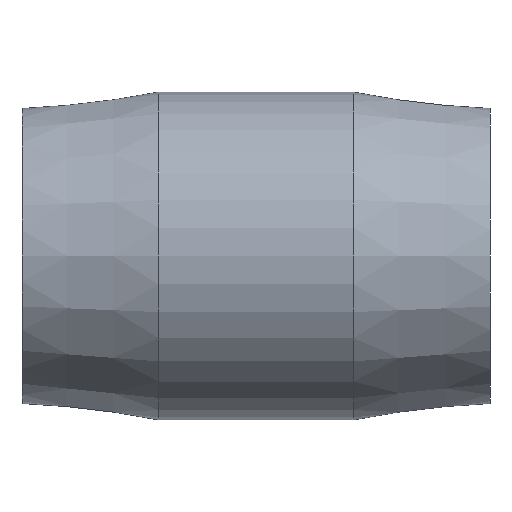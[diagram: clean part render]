
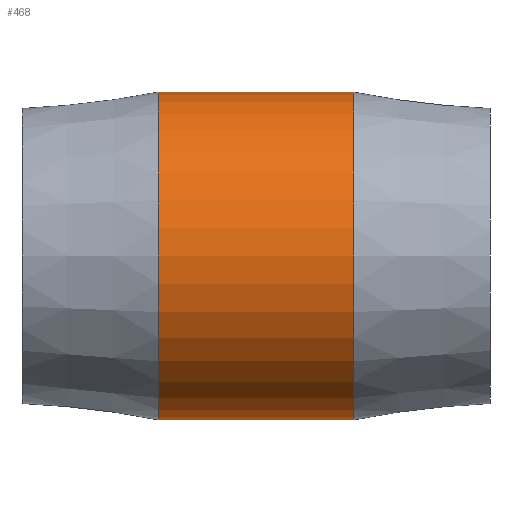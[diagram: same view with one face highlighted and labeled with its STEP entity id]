
A CAD part, front view. The second image highlights one B-rep face of the part: STEP entity #468.
In plain terms, the highlighted cylindrical face has radius 41.021 mm (diameter 82.042 mm), a full revolution.
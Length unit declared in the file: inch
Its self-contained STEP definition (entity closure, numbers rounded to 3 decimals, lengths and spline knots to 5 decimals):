
#44=LINE('',#869,#61);
#61=VECTOR('',#639,1.615);
#76=CYLINDRICAL_SURFACE('',#528,1.615);
#94=FACE_OUTER_BOUND('',#127,.T.);
#127=EDGE_LOOP('',(#350,#351,#352,#353,#354,#355));
#163=CIRCLE('',#529,1.615);
#164=CIRCLE('',#530,1.615);
#165=CIRCLE('',#531,1.615);
#166=CIRCLE('',#532,1.615);
#212=VERTEX_POINT('',#864);
#213=VERTEX_POINT('',#865);
#214=VERTEX_POINT('',#868);
#215=VERTEX_POINT('',#870);
#267=EDGE_CURVE('',#212,#213,#163,.T.);
#268=EDGE_CURVE('',#213,#212,#164,.T.);
#269=EDGE_CURVE('',#213,#214,#44,.T.);
#270=EDGE_CURVE('',#214,#215,#165,.T.);
#271=EDGE_CURVE('',#215,#214,#166,.T.);
#350=ORIENTED_EDGE('',*,*,#267,.F.);
#351=ORIENTED_EDGE('',*,*,#268,.F.);
#352=ORIENTED_EDGE('',*,*,#269,.T.);
#353=ORIENTED_EDGE('',*,*,#270,.T.);
#354=ORIENTED_EDGE('',*,*,#271,.T.);
#355=ORIENTED_EDGE('',*,*,#269,.F.);
#468=ADVANCED_FACE('',(#94),#76,.T.);
#528=AXIS2_PLACEMENT_3D('',#863,#633,#634);
#529=AXIS2_PLACEMENT_3D('',#866,#635,#636);
#530=AXIS2_PLACEMENT_3D('',#867,#637,#638);
#531=AXIS2_PLACEMENT_3D('',#871,#640,#641);
#532=AXIS2_PLACEMENT_3D('',#872,#642,#643);
#633=DIRECTION('center_axis',(1.,0.,0.));
#634=DIRECTION('ref_axis',(0.,1.,0.));
#635=DIRECTION('center_axis',(1.,0.,0.));
#636=DIRECTION('ref_axis',(0.,0.,-1.));
#637=DIRECTION('center_axis',(1.,0.,0.));
#638=DIRECTION('ref_axis',(0.,0.,-1.));
#639=DIRECTION('',(-1.,0.,0.));
#640=DIRECTION('center_axis',(1.,0.,0.));
#641=DIRECTION('ref_axis',(0.,0.,-1.));
#642=DIRECTION('center_axis',(1.,0.,0.));
#643=DIRECTION('ref_axis',(0.,0.,-1.));
#863=CARTESIAN_POINT('Origin',(0.476,0.,0.));
#864=CARTESIAN_POINT('',(0.961,1.615,0.));
#865=CARTESIAN_POINT('',(0.961,-1.615,0.));
#866=CARTESIAN_POINT('Origin',(0.961,0.,0.));
#867=CARTESIAN_POINT('Origin',(0.961,0.,0.));
#868=CARTESIAN_POINT('',(-0.961,-1.615,0.));
#869=CARTESIAN_POINT('',(0.476,-1.615,0.));
#870=CARTESIAN_POINT('',(-0.961,1.615,0.));
#871=CARTESIAN_POINT('Origin',(-0.961,0.,0.));
#872=CARTESIAN_POINT('Origin',(-0.961,0.,0.));
